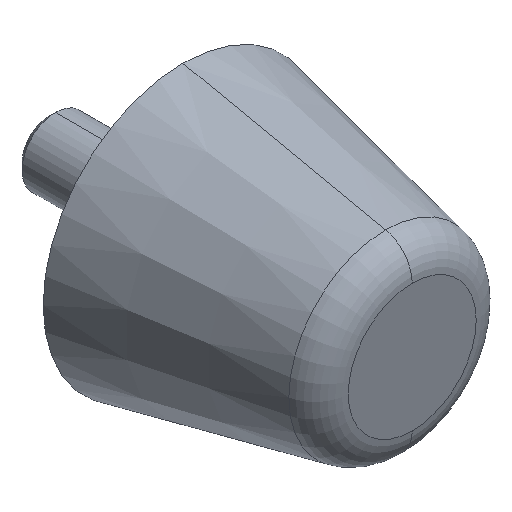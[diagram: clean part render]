
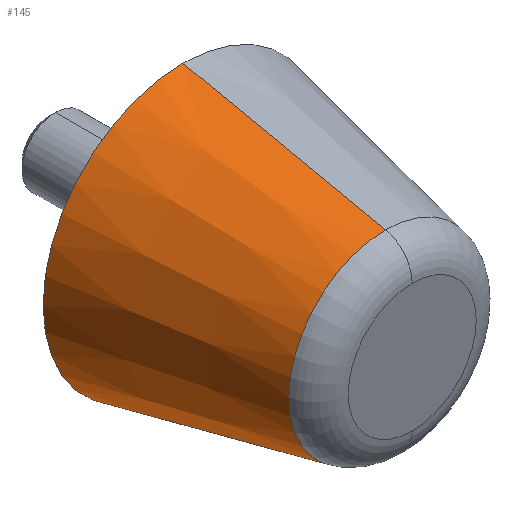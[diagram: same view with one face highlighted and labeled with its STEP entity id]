
A CAD part, isometric view. The second image highlights one B-rep face of the part: STEP entity #145.
In plain terms, the highlighted conical face has half-angle 11.98 degrees and reference radius 8.15 mm.
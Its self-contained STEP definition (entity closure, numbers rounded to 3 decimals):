
#25 = CIRCLE ( 'NONE', #176, 12.5 ) ;
#35 = AXIS2_PLACEMENT_3D ( 'NONE', #241, #51, #482 ) ;
#37 = DIRECTION ( 'NONE',  ( 0., -1., 0. ) ) ;
#51 = DIRECTION ( 'NONE',  ( 0., 1., 0. ) ) ;
#57 = VERTEX_POINT ( 'NONE', #465 ) ;
#68 = VECTOR ( 'NONE', #80, 1000. ) ;
#70 = CARTESIAN_POINT ( 'NONE',  ( 0., 20.5, -12.5 ) ) ;
#80 = DIRECTION ( 'NONE',  ( 0., 0.978, 0.208 ) ) ;
#98 = FACE_OUTER_BOUND ( 'NONE', #119, .T. ) ;
#118 = CARTESIAN_POINT ( 'NONE',  ( 0., 2.377, -8.654 ) ) ;
#119 = EDGE_LOOP ( 'NONE', ( #126, #419, #340, #334 ) ) ;
#125 = CARTESIAN_POINT ( 'NONE',  ( 0., 2.377, 8.654 ) ) ;
#126 = ORIENTED_EDGE ( 'NONE', *, *, #543, .F. ) ;
#145 = ADVANCED_FACE ( 'NONE', ( #98 ), #211, .T. ) ;
#171 = DIRECTION ( 'NONE',  ( 0., 0., -1. ) ) ;
#175 = AXIS2_PLACEMENT_3D ( 'NONE', #224, #389, #520 ) ;
#176 = AXIS2_PLACEMENT_3D ( 'NONE', #380, #37, #171 ) ;
#198 = DIRECTION ( 'NONE',  ( 0., 0.978, -0.208 ) ) ;
#211 = CONICAL_SURFACE ( 'NONE', #175, 8.15, 0.209 ) ;
#224 = CARTESIAN_POINT ( 'NONE',  ( 0., 0., 0. ) ) ;
#234 = LINE ( 'NONE', #407, #499 ) ;
#241 = CARTESIAN_POINT ( 'NONE',  ( 0., 2.377, 0. ) ) ;
#253 = CARTESIAN_POINT ( 'NONE',  ( 0., 0., 8.15 ) ) ;
#334 = ORIENTED_EDGE ( 'NONE', *, *, #385, .T. ) ;
#340 = ORIENTED_EDGE ( 'NONE', *, *, #413, .T. ) ;
#373 = LINE ( 'NONE', #253, #68 ) ;
#380 = CARTESIAN_POINT ( 'NONE',  ( 0., 20.5, 0. ) ) ;
#381 = VERTEX_POINT ( 'NONE', #70 ) ;
#385 = EDGE_CURVE ( 'NONE', #57, #381, #25, .T. ) ;
#389 = DIRECTION ( 'NONE',  ( 0., 1., 0. ) ) ;
#400 = VERTEX_POINT ( 'NONE', #118 ) ;
#407 = CARTESIAN_POINT ( 'NONE',  ( 0., 0., -8.15 ) ) ;
#413 = EDGE_CURVE ( 'NONE', #427, #57, #373, .T. ) ;
#419 = ORIENTED_EDGE ( 'NONE', *, *, #501, .T. ) ;
#420 = CIRCLE ( 'NONE', #35, 8.654 ) ;
#427 = VERTEX_POINT ( 'NONE', #125 ) ;
#465 = CARTESIAN_POINT ( 'NONE',  ( 0., 20.5, 12.5 ) ) ;
#482 = DIRECTION ( 'NONE',  ( 0., 0., -1. ) ) ;
#499 = VECTOR ( 'NONE', #198, 1000. ) ;
#501 = EDGE_CURVE ( 'NONE', #400, #427, #420, .T. ) ;
#520 = DIRECTION ( 'NONE',  ( 0., 0., 1. ) ) ;
#543 = EDGE_CURVE ( 'NONE', #400, #381, #234, .T. ) ;
